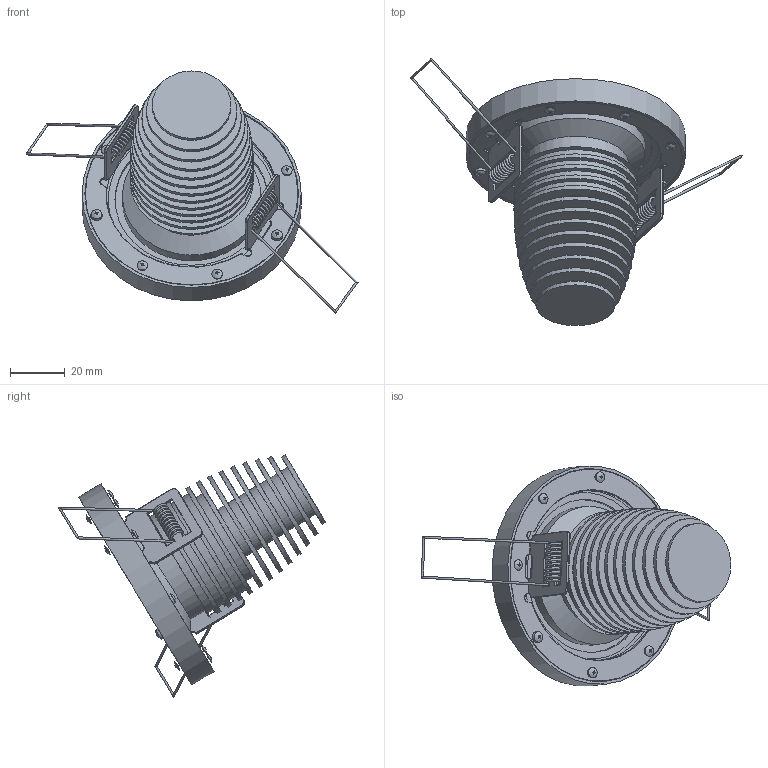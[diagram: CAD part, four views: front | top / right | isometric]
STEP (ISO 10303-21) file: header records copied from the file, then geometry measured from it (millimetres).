
FILE_DESCRIPTION(/* description */ (''),/* implementation_level */ '2;1');
FILE_NAME(/* name */ 'C:/Users/elena/Desktop/Kiwi Oblò.step',/* time_stamp */ '2020-06-18T15:26:14+02:00',/* author */ (''),/* organization */ (''),/* preprocessor_version */ 'ST-DEVELOPER v18.1',/* originating_system */ 'Autodesk Translation Framework v9.3.0.1241',/* authorisation */ '');
FILE_SCHEMA (('AUTOMOTIVE_DESIGN { 1 0 10303 214 3 1 1 }'));
Length unit declared in the file: millimetre
Products named in the file (1): (Unsaved)
Bounding box: 121.23 x 97.58 x 88.42 mm (x, y, z)
Volume: 64691 mm3; surface area: 64990.4 mm2
Topology: 20 solids, 20 shells, 422 faces, 1139 edges, 756 vertices
Faces by surface type: plane 269, cylinder 125, cone 14, bspline 14
Full cylindrical faces by diameter (mm): 0.78 x8, 2.11 x12, 3 x4, 3.1 x6, 3.3 x6, 20 x7, 28.712 x1, 32.995 x1, 35.5 x1, 36.333 x1, 38.5 x1, 38.971 x1, 41 x4, 41.044 x1, 42.634 x1, 43.794 x1, 44.557 x1, 45 x3, 45.088 x1, 50 x1, 50.6 x1, 56 x1, 61 x1, 66.5 x2, 77.6 x1, 77.8 x2, 78 x2, 80 x1
Entity records: 19792 total; most frequent: CARTESIAN_POINT 8906, ORIENTED_EDGE 2286, DIRECTION 2217, EDGE_CURVE 1143, AXIS2_PLACEMENT_3D 782, VERTEX_POINT 761, LINE 653, VECTOR 653
